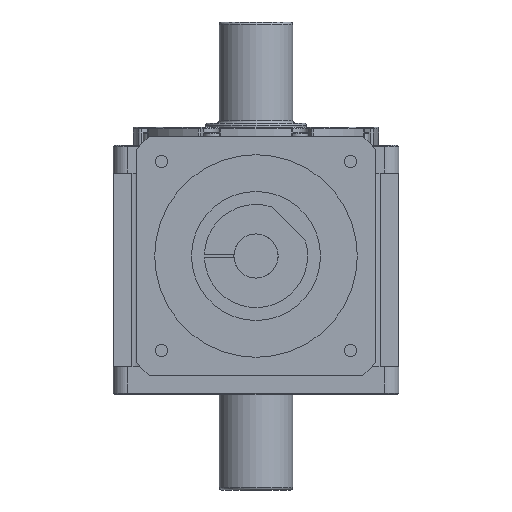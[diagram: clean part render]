
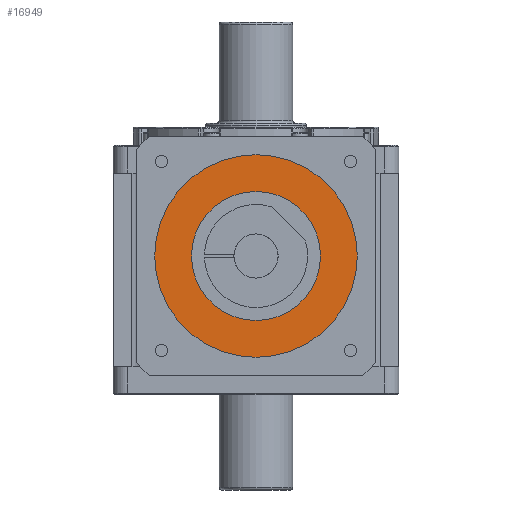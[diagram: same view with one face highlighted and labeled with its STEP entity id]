
A CAD part, front view. The second image highlights one B-rep face of the part: STEP entity #16949.
In plain terms, the highlighted planar face has unit normal (0, -1, 0) as drawn and (0, 0, -1) by its records, which use the part's own axes.
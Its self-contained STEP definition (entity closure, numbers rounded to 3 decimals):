
#42 = AXIS2_PLACEMENT_3D ( 'NONE', #4244, #4331, #17891 ) ;
#269 = EDGE_CURVE ( 'NONE', #15126, #751, #11951, .T. ) ;
#751 = VERTEX_POINT ( 'NONE', #3115 ) ;
#2667 = CARTESIAN_POINT ( 'NONE',  ( 0., 0., -111. ) ) ;
#3115 = CARTESIAN_POINT ( 'NONE',  ( 55., 0., -111. ) ) ;
#3174 = AXIS2_PLACEMENT_3D ( 'NONE', #3550, #9554, #14071 ) ;
#3496 = CIRCLE ( 'NONE', #14484, 35. ) ;
#3550 = CARTESIAN_POINT ( 'NONE',  ( 0., 0., -111. ) ) ;
#3714 = CARTESIAN_POINT ( 'NONE',  ( 35., 0., -111. ) ) ;
#3838 = ORIENTED_EDGE ( 'NONE', *, *, #12062, .F. ) ;
#4141 = FACE_OUTER_BOUND ( 'NONE', #15429, .T. ) ;
#4244 = CARTESIAN_POINT ( 'NONE',  ( 0., 0., -111. ) ) ;
#4331 = DIRECTION ( 'NONE',  ( 0., 0., -1. ) ) ;
#4804 = DIRECTION ( 'NONE',  ( -1., 0., 0. ) ) ;
#5424 = DIRECTION ( 'NONE',  ( -1., 0., 0. ) ) ;
#6041 = CARTESIAN_POINT ( 'NONE',  ( -35., 0., -111. ) ) ;
#6120 = VERTEX_POINT ( 'NONE', #3714 ) ;
#6370 = VERTEX_POINT ( 'NONE', #6041 ) ;
#6711 = CARTESIAN_POINT ( 'NONE',  ( 0., 0., -111. ) ) ;
#6736 = ORIENTED_EDGE ( 'NONE', *, *, #17198, .T. ) ;
#7395 = PLANE ( 'NONE',  #42 ) ;
#8678 = DIRECTION ( 'NONE',  ( -1., 0., 0. ) ) ;
#8868 = CIRCLE ( 'NONE', #17645, 35. ) ;
#9257 = DIRECTION ( 'NONE',  ( 0., 0., -1. ) ) ;
#9554 = DIRECTION ( 'NONE',  ( 0., 0., -1. ) ) ;
#10146 = DIRECTION ( 'NONE',  ( 0., 0., -1. ) ) ;
#11951 = CIRCLE ( 'NONE', #16969, 55. ) ;
#12062 = EDGE_CURVE ( 'NONE', #6370, #6120, #3496, .T. ) ;
#12730 = DIRECTION ( 'NONE',  ( 0., 0., -1. ) ) ;
#14071 = DIRECTION ( 'NONE',  ( -1., 0., 0. ) ) ;
#14471 = FACE_BOUND ( 'NONE', #17636, .T. ) ;
#14484 = AXIS2_PLACEMENT_3D ( 'NONE', #18265, #9257, #4804 ) ;
#15005 = ORIENTED_EDGE ( 'NONE', *, *, #269, .T. ) ;
#15126 = VERTEX_POINT ( 'NONE', #18613 ) ;
#15429 = EDGE_LOOP ( 'NONE', ( #15005, #6736 ) ) ;
#16949 = ADVANCED_FACE ( 'NONE', ( #14471, #4141 ), #7395, .T. ) ;
#16969 = AXIS2_PLACEMENT_3D ( 'NONE', #2667, #10146, #8678 ) ;
#16989 = CIRCLE ( 'NONE', #3174, 55. ) ;
#17198 = EDGE_CURVE ( 'NONE', #751, #15126, #16989, .T. ) ;
#17359 = ORIENTED_EDGE ( 'NONE', *, *, #17966, .F. ) ;
#17636 = EDGE_LOOP ( 'NONE', ( #3838, #17359 ) ) ;
#17645 = AXIS2_PLACEMENT_3D ( 'NONE', #6711, #12730, #5424 ) ;
#17891 = DIRECTION ( 'NONE',  ( -1., 0., 0. ) ) ;
#17966 = EDGE_CURVE ( 'NONE', #6120, #6370, #8868, .T. ) ;
#18265 = CARTESIAN_POINT ( 'NONE',  ( 0., 0., -111. ) ) ;
#18613 = CARTESIAN_POINT ( 'NONE',  ( -55., 0., -111. ) ) ;
